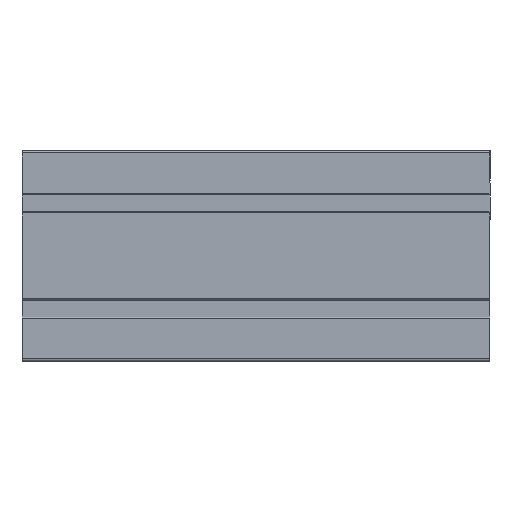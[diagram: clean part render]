
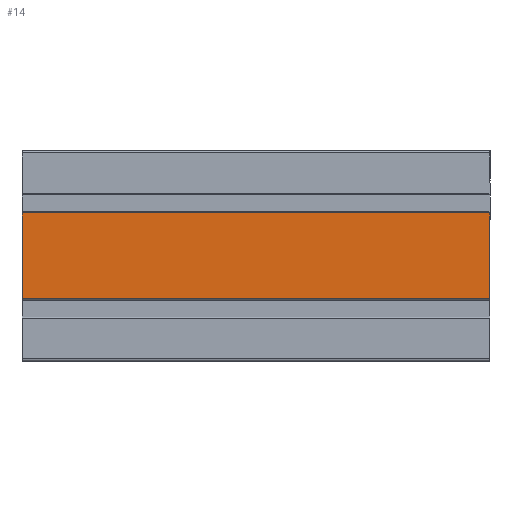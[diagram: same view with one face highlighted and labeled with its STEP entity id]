
A CAD part, top view. The second image highlights one B-rep face of the part: STEP entity #14.
In plain terms, the highlighted planar face has unit normal (0, 0, 1).
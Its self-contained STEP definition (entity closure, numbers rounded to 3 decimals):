
#14 = ADVANCED_FACE ( 'NONE', ( #354 ), #427, .F. ) ;
#94 = EDGE_CURVE ( 'NONE', #981, #2325, #1745, .T. ) ;
#104 = ORIENTED_EDGE ( 'NONE', *, *, #2712, .F. ) ;
#123 = DIRECTION ( 'NONE',  ( 0., 1., 0. ) ) ;
#138 = CARTESIAN_POINT ( 'NONE',  ( 200., 26.65, 0. ) ) ;
#229 = CARTESIAN_POINT ( 'NONE',  ( 200., 63.35, 0. ) ) ;
#286 = DIRECTION ( 'NONE',  ( -1., 0., 0. ) ) ;
#354 = FACE_OUTER_BOUND ( 'NONE', #2867, .T. ) ;
#378 = CARTESIAN_POINT ( 'NONE',  ( 200., 63.35, 0. ) ) ;
#427 = PLANE ( 'NONE',  #1595 ) ;
#584 = CARTESIAN_POINT ( 'NONE',  ( 200., 26.65, 0. ) ) ;
#747 = VECTOR ( 'NONE', #779, 1000. ) ;
#779 = DIRECTION ( 'NONE',  ( 1., 0., 0. ) ) ;
#875 = ORIENTED_EDGE ( 'NONE', *, *, #2602, .F. ) ;
#883 = LINE ( 'NONE', #3039, #2671 ) ;
#956 = ORIENTED_EDGE ( 'NONE', *, *, #1730, .F. ) ;
#981 = VERTEX_POINT ( 'NONE', #378 ) ;
#1117 = CARTESIAN_POINT ( 'NONE',  ( 0., 26.65, 0. ) ) ;
#1427 = VECTOR ( 'NONE', #286, 1000. ) ;
#1595 = AXIS2_PLACEMENT_3D ( 'NONE', #3100, #3083, #123 ) ;
#1730 = EDGE_CURVE ( 'NONE', #2325, #2520, #3010, .T. ) ;
#1745 = LINE ( 'NONE', #2036, #3240 ) ;
#2036 = CARTESIAN_POINT ( 'NONE',  ( 200., 26.65, 0. ) ) ;
#2071 = LINE ( 'NONE', #229, #747 ) ;
#2325 = VERTEX_POINT ( 'NONE', #138 ) ;
#2440 = CARTESIAN_POINT ( 'NONE',  ( 0., 63.35, 0. ) ) ;
#2486 = DIRECTION ( 'NONE',  ( 0., 1., 0. ) ) ;
#2520 = VERTEX_POINT ( 'NONE', #1117 ) ;
#2602 = EDGE_CURVE ( 'NONE', #2520, #2877, #883, .T. ) ;
#2671 = VECTOR ( 'NONE', #2486, 1000. ) ;
#2712 = EDGE_CURVE ( 'NONE', #2877, #981, #2071, .T. ) ;
#2831 = DIRECTION ( 'NONE',  ( 0., -1., 0. ) ) ;
#2867 = EDGE_LOOP ( 'NONE', ( #956, #3472, #104, #875 ) ) ;
#2877 = VERTEX_POINT ( 'NONE', #2440 ) ;
#3010 = LINE ( 'NONE', #584, #1427 ) ;
#3039 = CARTESIAN_POINT ( 'NONE',  ( 0., 26.65, 0. ) ) ;
#3083 = DIRECTION ( 'NONE',  ( 0., 0., -1. ) ) ;
#3100 = CARTESIAN_POINT ( 'NONE',  ( 200., 26.65, 0. ) ) ;
#3240 = VECTOR ( 'NONE', #2831, 1000. ) ;
#3472 = ORIENTED_EDGE ( 'NONE', *, *, #94, .F. ) ;
